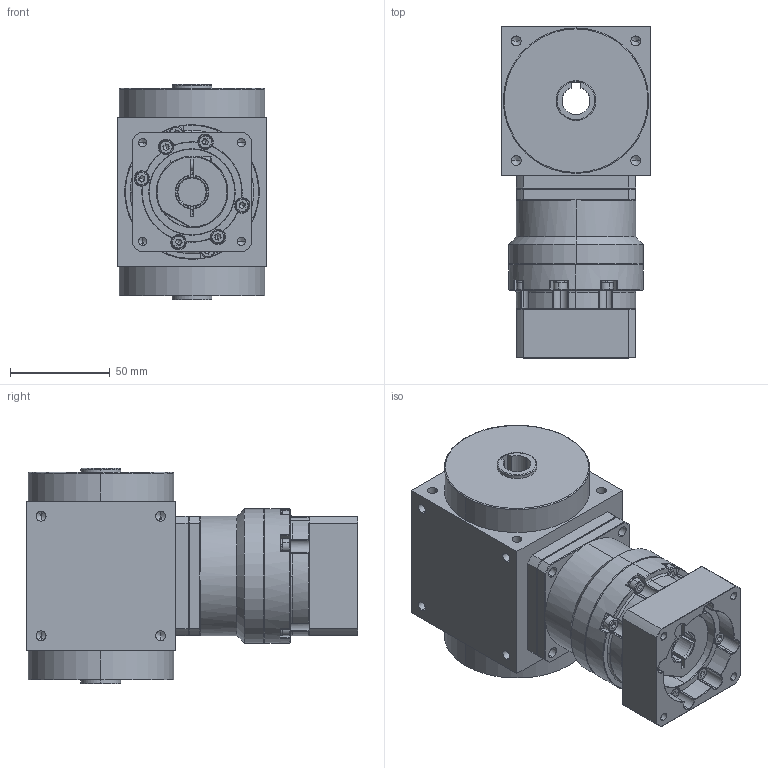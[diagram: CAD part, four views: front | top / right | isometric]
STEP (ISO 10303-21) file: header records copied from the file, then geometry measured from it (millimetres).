
FILE_DESCRIPTION (( 'STEP AP203' ), '1' );
FILE_NAME ('AT075-FH-L1 14-50-70-M5.STEP', '2024-12-24T09:15:06', ( '' ), ( '' ), 'SwSTEP 2.0', 'SolidWorks 2021', '' );
FILE_SCHEMA (( 'CONFIG_CONTROL_DESIGN' ));
Length unit declared in the file: millimetre
Products named in the file (3): VRB-060-L1-S2-P1 14-50-70-M5; AT075-FH-L1 14-50-70-M5; AT075-FH_1
Assembly tree (2 placements, depth 2):
  AT075-FH-L1 14-50-70-M5
    AT075-FH_1
    VRB-060-L1-S2-P1 14-50-70-M5
Bounding box: 75 x 166.5 x 108 mm (x, y, z)
Volume: 761352.4 mm3; surface area: 111949.3 mm2
Topology: 32 solids, 32 shells, 1094 faces, 2743 edges, 1671 vertices
Faces by surface type: cylinder 407, plane 393, cone 228, torus 54, bspline 12
Entity records: 34008 total; most frequent: CARTESIAN_POINT 7924, DIRECTION 5618, ORIENTED_EDGE 5310, EDGE_CURVE 2655, AXIS2_PLACEMENT_3D 2222, VERTEX_POINT 1671, EDGE_LOOP 1208, LINE 1174
